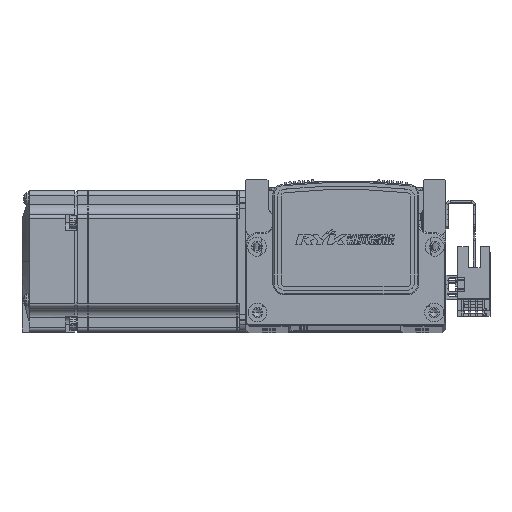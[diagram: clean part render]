
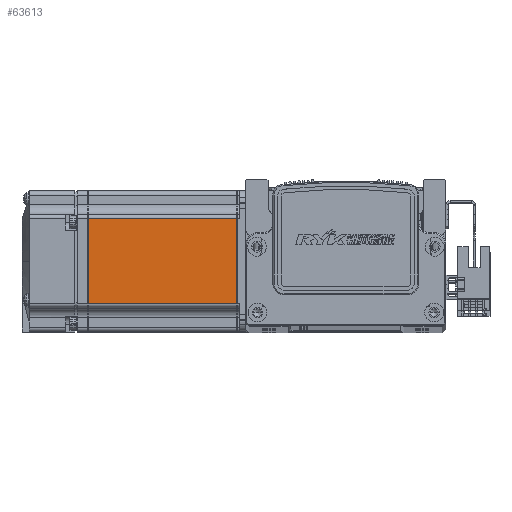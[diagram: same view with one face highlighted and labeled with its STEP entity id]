
A CAD part, top view. The second image highlights one B-rep face of the part: STEP entity #63613.
In plain terms, the highlighted planar face has unit normal (0, 0, 1) as drawn and (0, 0, -1) by its records, which use the part's own axes.
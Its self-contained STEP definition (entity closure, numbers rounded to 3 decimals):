
#4126 = VERTEX_POINT ( 'NONE', #26969 ) ;
#4138 = VERTEX_POINT ( 'NONE', #26953 ) ;
#4146 = VERTEX_POINT ( 'NONE', #27009 ) ;
#5743 = VERTEX_POINT ( 'NONE', #27465 ) ;
#8283 = FACE_OUTER_BOUND ( 'NONE', #37283, .T. ) ;
#10676 = DIRECTION ( 'NONE',  ( 0., 1., 0. ) ) ;
#10708 = CARTESIAN_POINT ( 'NONE',  ( -70.95, 25., -30. ) ) ;
#10714 = CARTESIAN_POINT ( 'NONE',  ( -6.5, -18., -30. ) ) ;
#10746 = DIRECTION ( 'NONE',  ( -1., 0., 0. ) ) ;
#14680 = ORIENTED_EDGE ( 'NONE', *, *, #76149, .T. ) ;
#14693 = ORIENTED_EDGE ( 'NONE', *, *, #76302, .T. ) ;
#14722 = ORIENTED_EDGE ( 'NONE', *, *, #76301, .T. ) ;
#14749 = ORIENTED_EDGE ( 'NONE', *, *, #76148, .T. ) ;
#15888 = AXIS2_PLACEMENT_3D ( 'NONE', #57727, #57766, #57786 ) ;
#26953 = CARTESIAN_POINT ( 'NONE',  ( -70.95, 18., -30. ) ) ;
#26969 = CARTESIAN_POINT ( 'NONE',  ( -7.75, 18., -30. ) ) ;
#27009 = CARTESIAN_POINT ( 'NONE',  ( -7.75, -18., -30. ) ) ;
#27465 = CARTESIAN_POINT ( 'NONE',  ( -70.95, -18., -30. ) ) ;
#37283 = EDGE_LOOP ( 'NONE', ( #14693, #14680, #14749, #14722 ) ) ;
#37728 = DIRECTION ( 'NONE',  ( 1., 0., 0. ) ) ;
#37743 = CARTESIAN_POINT ( 'NONE',  ( -6.5, 18., -30. ) ) ;
#37761 = CARTESIAN_POINT ( 'NONE',  ( -7.75, 25., -30. ) ) ;
#37764 = DIRECTION ( 'NONE',  ( 0., -1., 0. ) ) ;
#57726 = PLANE ( 'NONE',  #15888 ) ;
#57727 = CARTESIAN_POINT ( 'NONE',  ( -6.5, 25., -30. ) ) ;
#57766 = DIRECTION ( 'NONE',  ( 0., 0., -1. ) ) ;
#57786 = DIRECTION ( 'NONE',  ( -1., 0., 0. ) ) ;
#59834 = LINE ( 'NONE', #10708, #59862 ) ;
#59862 = VECTOR ( 'NONE', #10676, 1000. ) ;
#59874 = LINE ( 'NONE', #10714, #59877 ) ;
#59877 = VECTOR ( 'NONE', #10746, 1000. ) ;
#60015 = LINE ( 'NONE', #37761, #60073 ) ;
#60067 = VECTOR ( 'NONE', #37728, 1000. ) ;
#60073 = VECTOR ( 'NONE', #37764, 1000. ) ;
#60076 = LINE ( 'NONE', #37743, #60067 ) ;
#63613 = ADVANCED_FACE ( 'NONE', ( #8283 ), #57726, .T. ) ;
#76148 = EDGE_CURVE ( 'NONE', #5743, #4138, #59834, .T. ) ;
#76149 = EDGE_CURVE ( 'NONE', #4146, #5743, #59874, .T. ) ;
#76301 = EDGE_CURVE ( 'NONE', #4138, #4126, #60076, .T. ) ;
#76302 = EDGE_CURVE ( 'NONE', #4126, #4146, #60015, .T. ) ;
